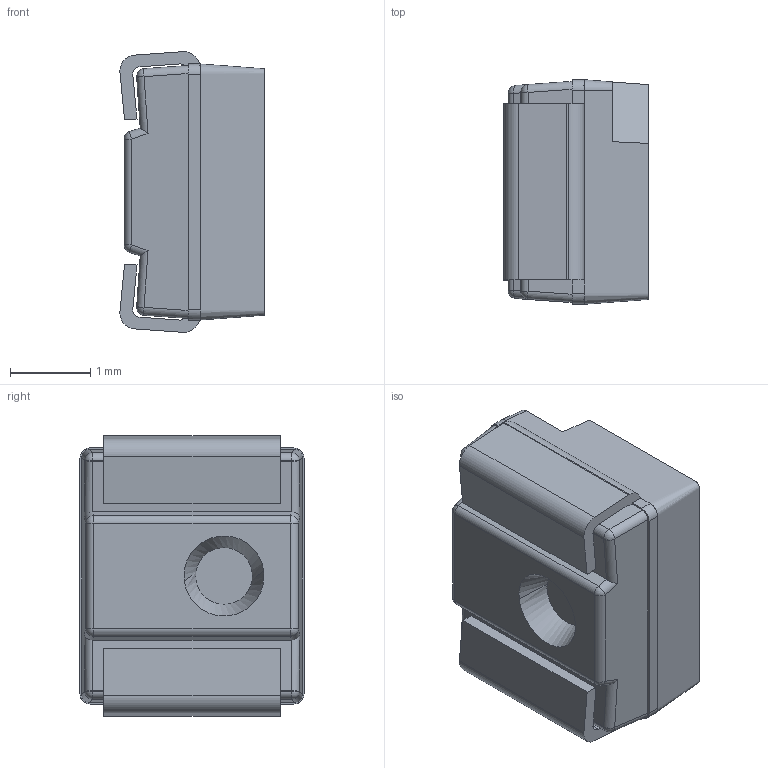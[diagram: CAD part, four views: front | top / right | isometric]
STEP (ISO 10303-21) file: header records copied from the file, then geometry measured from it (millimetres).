
FILE_DESCRIPTION (( 'STEP AP214' ), '1' );
FILE_NAME ('LRA.STEP', '2024-01-29T21:09:14', ( '' ), ( '' ), 'SwSTEP 2.0', 'SolidWorks 2022', '' );
FILE_SCHEMA (( 'AUTOMOTIVE_DESIGN' ));
Length unit declared in the file: millimetre
Products named in the file (1): LRA
Bounding box: 1.8 x 2.8 x 3.51 mm (x, y, z)
Volume: 14.9 mm3; surface area: 50.9 mm2
Topology: 1 solids, 1 shells, 94 faces, 239 edges, 145 vertices
Faces by surface type: plane 42, cylinder 36, sphere 12, bspline 4
Entity records: 4168 total; most frequent: CARTESIAN_POINT 878, ORIENTED_EDGE 470, DIRECTION 463, EDGE_CURVE 235, AXIS2_PLACEMENT_3D 159, VECTOR 145, VERTEX_POINT 145, LINE 145
